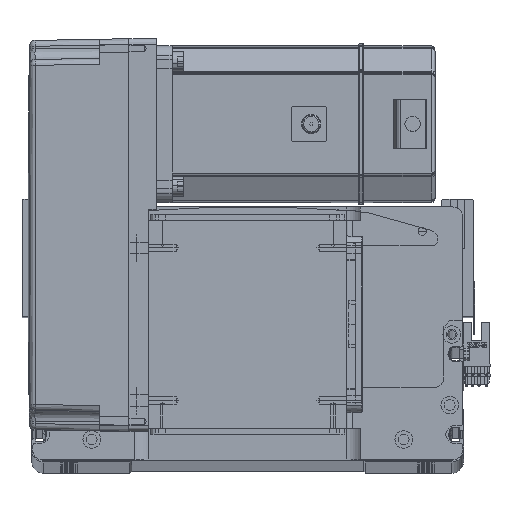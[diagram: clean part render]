
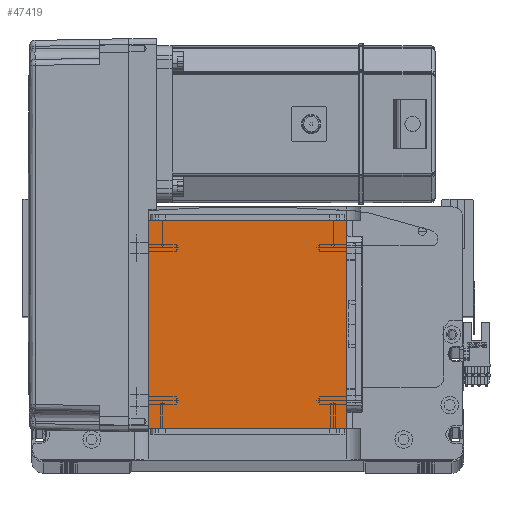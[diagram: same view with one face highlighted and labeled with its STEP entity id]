
A CAD part, top view. The second image highlights one B-rep face of the part: STEP entity #47419.
In plain terms, the highlighted planar face has unit normal (0, 0, 1).
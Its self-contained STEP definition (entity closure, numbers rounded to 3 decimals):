
#114 = PLANE ( 'NONE',  #47436 ) ;
#239 = DIRECTION ( 'NONE',  ( 1., 0., 0. ) ) ;
#6644 = CARTESIAN_POINT ( 'NONE',  ( -50.5, 122., 115. ) ) ;
#7091 = VECTOR ( 'NONE', #43828, 1000. ) ;
#8761 = EDGE_CURVE ( 'NONE', #37980, #12652, #37376, .T. ) ;
#9191 = DIRECTION ( 'NONE',  ( 1., 0., 0. ) ) ;
#10908 = CARTESIAN_POINT ( 'NONE',  ( -50.5, 16., 115. ) ) ;
#12652 = VERTEX_POINT ( 'NONE', #47834 ) ;
#15193 = VECTOR ( 'NONE', #23412, 1000. ) ;
#18154 = CARTESIAN_POINT ( 'NONE',  ( -50.5, 16., 115. ) ) ;
#18348 = VERTEX_POINT ( 'NONE', #10908 ) ;
#18611 = CARTESIAN_POINT ( 'NONE',  ( -50.5, 122., 115. ) ) ;
#22166 = EDGE_CURVE ( 'NONE', #18348, #43358, #36154, .T. ) ;
#22970 = CARTESIAN_POINT ( 'NONE',  ( 50.5, 16., 115. ) ) ;
#23412 = DIRECTION ( 'NONE',  ( 0., -1., 0. ) ) ;
#28790 = DIRECTION ( 'NONE',  ( 0., 1., 0. ) ) ;
#30328 = VECTOR ( 'NONE', #28790, 1000. ) ;
#32334 = DIRECTION ( 'NONE',  ( 0., 0., 1. ) ) ;
#32803 = CARTESIAN_POINT ( 'NONE',  ( 50.5, 122., 115. ) ) ;
#33062 = CARTESIAN_POINT ( 'NONE',  ( 50.5, 122., 115. ) ) ;
#36134 = LINE ( 'NONE', #18611, #15193 ) ;
#36154 = LINE ( 'NONE', #18154, #45443 ) ;
#37376 = LINE ( 'NONE', #6644, #7091 ) ;
#37980 = VERTEX_POINT ( 'NONE', #32803 ) ;
#38818 = FACE_OUTER_BOUND ( 'NONE', #43409, .T. ) ;
#43228 = ORIENTED_EDGE ( 'NONE', *, *, #8761, .T. ) ;
#43358 = VERTEX_POINT ( 'NONE', #22970 ) ;
#43409 = EDGE_LOOP ( 'NONE', ( #44836, #55875, #50535, #43228 ) ) ;
#43828 = DIRECTION ( 'NONE',  ( -1., 0., 0. ) ) ;
#44836 = ORIENTED_EDGE ( 'NONE', *, *, #52570, .T. ) ;
#45443 = VECTOR ( 'NONE', #239, 1000. ) ;
#47419 = ADVANCED_FACE ( 'NONE', ( #38818 ), #114, .T. ) ;
#47436 = AXIS2_PLACEMENT_3D ( 'NONE', #55570, #32334, #9191 ) ;
#47834 = CARTESIAN_POINT ( 'NONE',  ( -50.5, 122., 115. ) ) ;
#50535 = ORIENTED_EDGE ( 'NONE', *, *, #51768, .T. ) ;
#51768 = EDGE_CURVE ( 'NONE', #43358, #37980, #53993, .T. ) ;
#52570 = EDGE_CURVE ( 'NONE', #12652, #18348, #36134, .T. ) ;
#53993 = LINE ( 'NONE', #33062, #30328 ) ;
#55570 = CARTESIAN_POINT ( 'NONE',  ( 0., 0., 115. ) ) ;
#55875 = ORIENTED_EDGE ( 'NONE', *, *, #22166, .T. ) ;
